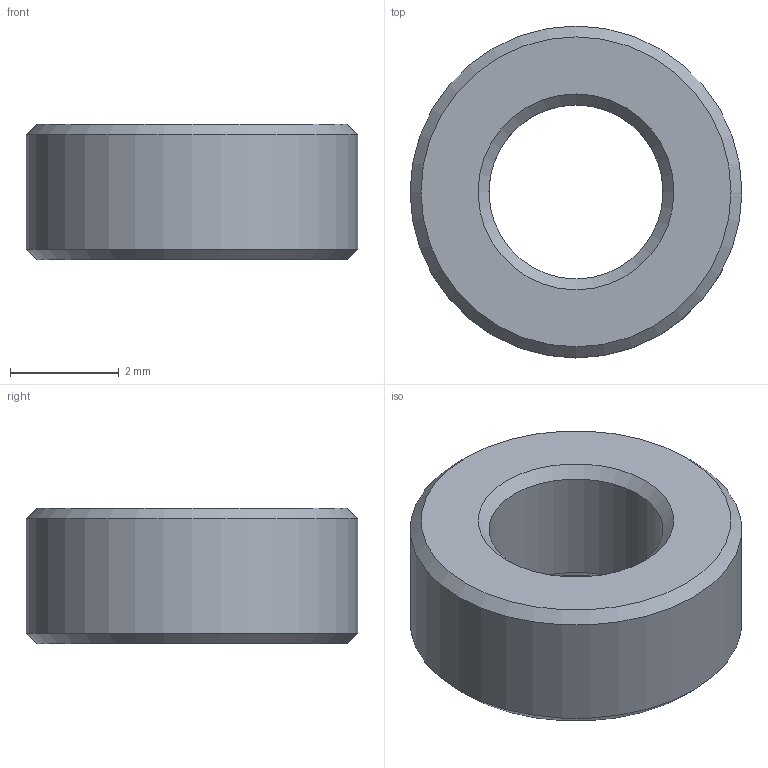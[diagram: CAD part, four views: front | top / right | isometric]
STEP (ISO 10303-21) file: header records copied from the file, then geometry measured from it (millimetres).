
FILE_DESCRIPTION(('Open CASCADE Model'),'2;1');
FILE_NAME('Open CASCADE Shape Model','2026-11-05T10:33:08',('Author'),( 'Open CASCADE'),'Open CASCADE STEP processor 8.0','build123d', 'Unknown');
FILE_SCHEMA(('AUTOMOTIVE_DESIGN { 1 0 10303 214 1 1 1 1 }'));
Length unit declared in the file: millimetre
Products named in the file (1): COMPOUND
Bounding box: 6.1 x 6.1 x 2.5 mm (x, y, z)
Volume: 51.8 mm3; surface area: 108.6 mm2
Topology: 1 solids, 1 shells, 8 faces, 14 edges, 8 vertices
Faces by surface type: cone 4, cylinder 2, plane 2
Full cylindrical faces by diameter (mm): 3.2 x1, 6.1 x1
Entity records: 382 total; most frequent: CARTESIAN_POINT 67, DIRECTION 60, ORIENTED_EDGE 28, PCURVE 28, DEFINITIONAL_REPRESENTATION 28, LINE 22, VECTOR 22, AXIS2_PLACEMENT_3D 17
